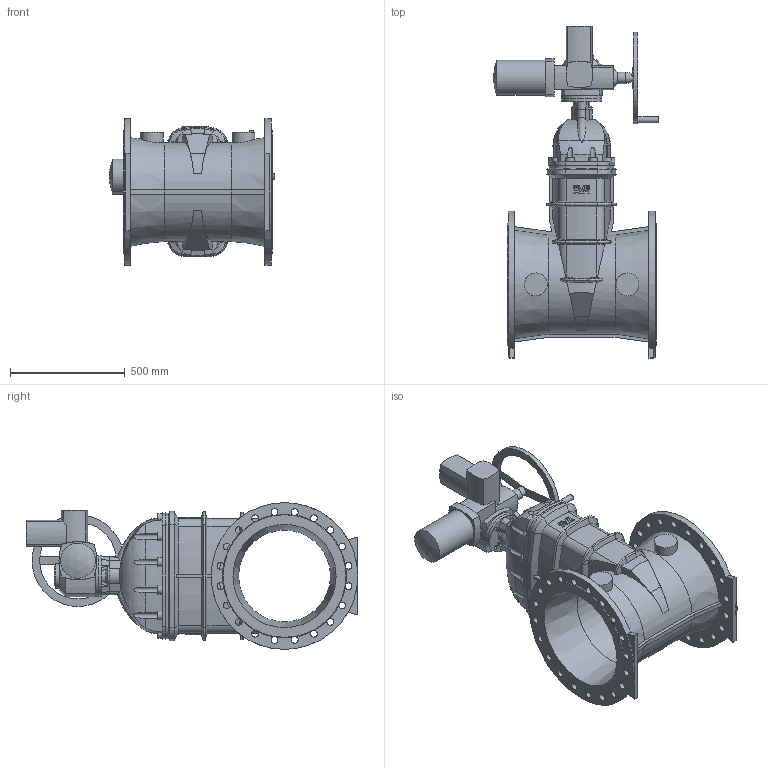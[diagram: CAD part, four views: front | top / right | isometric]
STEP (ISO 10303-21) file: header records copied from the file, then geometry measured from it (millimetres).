
FILE_DESCRIPTION (( 'STEP AP203' ), '1' );
FILE_NAME ('O_15_72_DN450_00_step with AUMA.STEP', '2015-06-08T08:29:48', ( '' ), ( '' ), 'SwSTEP 2.0', 'SolidWorks 2012', '' );
FILE_SCHEMA (( 'CONFIG_CONTROL_DESIGN' ));
Length unit declared in the file: millimetre
Products named in the file (1): O_15_72_DN450_00_step with AUMA
Bounding box: 721 x 1447 x 640 mm (x, y, z)
Volume: 102664812.5 mm3; surface area: 4164066.7 mm2
Topology: 1 solids, 1 shells, 537 faces, 1510 edges, 965 vertices
Faces by surface type: plane 207, cylinder 205, cone 78, torus 30, bspline 16, sphere 1
Full cylindrical faces by diameter (mm): 12 x4, 18 x4, 25 x1, 29.5 x40, 49.792 x1, 85 x1, 100 x2, 106 x1, 153 x1, 175 x2, 334 x1, 400 x2, 640 x2
Entity records: 20036 total; most frequent: CARTESIAN_POINT 6955, ORIENTED_EDGE 2760, DIRECTION 2654, EDGE_CURVE 1380, AXIS2_PLACEMENT_3D 1074, VERTEX_POINT 904, EDGE_LOOP 682, FACE_OUTER_BOUND 599
